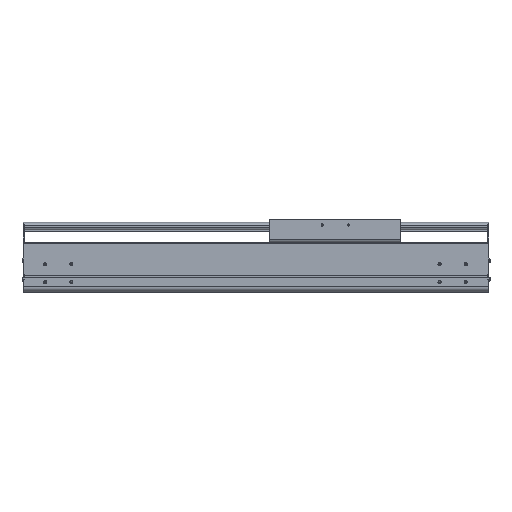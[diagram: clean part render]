
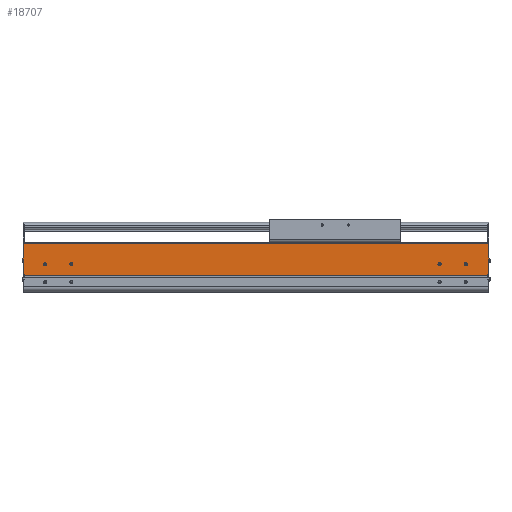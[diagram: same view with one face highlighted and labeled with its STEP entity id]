
A CAD part, top view. The second image highlights one B-rep face of the part: STEP entity #18707.
In plain terms, the highlighted planar face has unit normal (0, 0, 1).
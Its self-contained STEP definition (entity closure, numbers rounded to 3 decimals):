
#4659=DIRECTION('',(-1.,0.,0.));
#4660=VECTOR('',#4659,888.);
#4661=CARTESIAN_POINT('',(2.,93.5,107.));
#4662=LINE('',#4661,#4660);
#4685=CARTESIAN_POINT('',(-42.,54.,107.));
#4686=DIRECTION('',(0.,0.,-1.));
#4687=DIRECTION('',(1.,0.,0.));
#4688=AXIS2_PLACEMENT_3D('',#4685,#4686,#4687);
#4690=CARTESIAN_POINT('',(-42.,54.,107.));
#4691=DIRECTION('',(0.,0.,-1.));
#4692=DIRECTION('',(-1.,0.,0.));
#4693=AXIS2_PLACEMENT_3D('',#4690,#4691,#4692);
#4695=CARTESIAN_POINT('',(-92.,54.,107.));
#4696=DIRECTION('',(0.,0.,-1.));
#4697=DIRECTION('',(1.,0.,0.));
#4698=AXIS2_PLACEMENT_3D('',#4695,#4696,#4697);
#4700=CARTESIAN_POINT('',(-92.,54.,107.));
#4701=DIRECTION('',(0.,0.,-1.));
#4702=DIRECTION('',(-1.,0.,0.));
#4703=AXIS2_PLACEMENT_3D('',#4700,#4701,#4702);
#4705=CARTESIAN_POINT('',(-844.,54.,107.));
#4706=DIRECTION('',(0.,0.,-1.));
#4707=DIRECTION('',(1.,0.,0.));
#4708=AXIS2_PLACEMENT_3D('',#4705,#4706,#4707);
#4710=CARTESIAN_POINT('',(-844.,54.,107.));
#4711=DIRECTION('',(0.,0.,-1.));
#4712=DIRECTION('',(-1.,0.,0.));
#4713=AXIS2_PLACEMENT_3D('',#4710,#4711,#4712);
#4715=CARTESIAN_POINT('',(-794.,54.,107.));
#4716=DIRECTION('',(0.,0.,-1.));
#4717=DIRECTION('',(1.,0.,0.));
#4718=AXIS2_PLACEMENT_3D('',#4715,#4716,#4717);
#4720=CARTESIAN_POINT('',(-794.,54.,107.));
#4721=DIRECTION('',(0.,0.,-1.));
#4722=DIRECTION('',(-1.,0.,0.));
#4723=AXIS2_PLACEMENT_3D('',#4720,#4721,#4722);
#4725=DIRECTION('',(0.,-1.,0.));
#4726=VECTOR('',#4725,2.55);
#4727=CARTESIAN_POINT('',(-884.,34.65,107.));
#4728=LINE('',#4727,#4726);
#4729=DIRECTION('',(0.,-1.,0.));
#4730=VECTOR('',#4729,58.85);
#4731=CARTESIAN_POINT('',(-886.,93.5,107.));
#4732=LINE('',#4731,#4730);
#4733=DIRECTION('',(0.,1.,0.));
#4734=VECTOR('',#4733,58.85);
#4735=CARTESIAN_POINT('',(2.,34.65,107.));
#4736=LINE('',#4735,#4734);
#4737=DIRECTION('',(0.,1.,0.));
#4738=VECTOR('',#4737,2.55);
#4739=CARTESIAN_POINT('',(0.,32.1,107.));
#4740=LINE('',#4739,#4738);
#4849=DIRECTION('',(1.,0.,0.));
#4850=VECTOR('',#4849,2.);
#4851=CARTESIAN_POINT('',(-886.,34.65,107.));
#4852=LINE('',#4851,#4850);
#4961=DIRECTION('',(1.,0.,0.));
#4962=VECTOR('',#4961,884.);
#4963=CARTESIAN_POINT('',(-884.,32.1,107.));
#4964=LINE('',#4963,#4962);
#4977=DIRECTION('',(1.,0.,0.));
#4978=VECTOR('',#4977,2.);
#4979=CARTESIAN_POINT('',(0.,34.65,107.));
#4980=LINE('',#4979,#4978);
#10155=CARTESIAN_POINT('',(-886.,34.65,107.));
#10156=VERTEX_POINT('',#10155);
#10157=CARTESIAN_POINT('',(-886.,93.5,107.));
#10158=VERTEX_POINT('',#10157);
#10387=CARTESIAN_POINT('',(-884.,32.1,107.));
#10388=VERTEX_POINT('',#10387);
#10483=CARTESIAN_POINT('',(0.,32.1,107.));
#10484=VERTEX_POINT('',#10483);
#10793=CARTESIAN_POINT('',(-39.5,54.,107.));
#10794=CARTESIAN_POINT('',(-44.5,54.,107.));
#10795=VERTEX_POINT('',#10793);
#10796=VERTEX_POINT('',#10794);
#10797=CARTESIAN_POINT('',(-89.5,54.,107.));
#10798=CARTESIAN_POINT('',(-94.5,54.,107.));
#10799=VERTEX_POINT('',#10797);
#10800=VERTEX_POINT('',#10798);
#10801=CARTESIAN_POINT('',(-841.5,54.,107.));
#10802=CARTESIAN_POINT('',(-846.5,54.,107.));
#10803=VERTEX_POINT('',#10801);
#10804=VERTEX_POINT('',#10802);
#10805=CARTESIAN_POINT('',(-791.5,54.,107.));
#10806=CARTESIAN_POINT('',(-796.5,54.,107.));
#10807=VERTEX_POINT('',#10805);
#10808=VERTEX_POINT('',#10806);
#11780=CARTESIAN_POINT('',(2.,34.65,107.));
#11781=VERTEX_POINT('',#11780);
#11782=CARTESIAN_POINT('',(2.,93.5,107.));
#11783=VERTEX_POINT('',#11782);
#12004=CARTESIAN_POINT('',(0.,34.65,107.));
#12005=VERTEX_POINT('',#12004);
#12316=CARTESIAN_POINT('',(-884.,34.65,107.));
#12317=VERTEX_POINT('',#12316);
#18665=CARTESIAN_POINT('',(-442.,62.8,107.));
#18666=DIRECTION('',(0.,0.,1.));
#18667=DIRECTION('',(0.,-1.,0.));
#18668=AXIS2_PLACEMENT_3D('',#18665,#18666,#18667);
#18669=PLANE('',#18668);
#18670=ORIENTED_EDGE('',*,*,#14178,.F.);
#18672=ORIENTED_EDGE('',*,*,#18671,.F.);
#18673=ORIENTED_EDGE('',*,*,#14790,.F.);
#18674=ORIENTED_EDGE('',*,*,#18651,.F.);
#18675=ORIENTED_EDGE('',*,*,#13918,.F.);
#18677=ORIENTED_EDGE('',*,*,#18676,.F.);
#18678=ORIENTED_EDGE('',*,*,#13149,.F.);
#18680=ORIENTED_EDGE('',*,*,#18679,.F.);
#18681=EDGE_LOOP('',(#18670,#18672,#18673,#18674,#18675,#18677,#18678,#18680));
#18682=FACE_OUTER_BOUND('',#18681,.F.);
#18684=ORIENTED_EDGE('',*,*,#18683,.F.);
#18686=ORIENTED_EDGE('',*,*,#18685,.F.);
#18687=EDGE_LOOP('',(#18684,#18686));
#18688=FACE_BOUND('',#18687,.F.);
#18690=ORIENTED_EDGE('',*,*,#18689,.F.);
#18692=ORIENTED_EDGE('',*,*,#18691,.F.);
#18693=EDGE_LOOP('',(#18690,#18692));
#18694=FACE_BOUND('',#18693,.F.);
#18696=ORIENTED_EDGE('',*,*,#18695,.F.);
#18698=ORIENTED_EDGE('',*,*,#18697,.F.);
#18699=EDGE_LOOP('',(#18696,#18698));
#18700=FACE_BOUND('',#18699,.F.);
#18702=ORIENTED_EDGE('',*,*,#18701,.F.);
#18704=ORIENTED_EDGE('',*,*,#18703,.F.);
#18705=EDGE_LOOP('',(#18702,#18704));
#18706=FACE_BOUND('',#18705,.F.);
#18707=ADVANCED_FACE('',(#18682,#18688,#18694,#18700,#18706),#18669,.T.);
#4689=CIRCLE('',#4688,2.5);
#4694=CIRCLE('',#4693,2.5);
#4699=CIRCLE('',#4698,2.5);
#4704=CIRCLE('',#4703,2.5);
#4709=CIRCLE('',#4708,2.5);
#4714=CIRCLE('',#4713,2.5);
#4719=CIRCLE('',#4718,2.5);
#4724=CIRCLE('',#4723,2.5);
#13149=EDGE_CURVE('',#10484,#12005,#4740,.T.);
#13918=EDGE_CURVE('',#11781,#11783,#4736,.T.);
#14178=EDGE_CURVE('',#12317,#10388,#4728,.T.);
#14790=EDGE_CURVE('',#10158,#10156,#4732,.T.);
#18651=EDGE_CURVE('',#11783,#10158,#4662,.T.);
#18671=EDGE_CURVE('',#10156,#12317,#4852,.T.);
#18676=EDGE_CURVE('',#12005,#11781,#4980,.T.);
#18679=EDGE_CURVE('',#10388,#10484,#4964,.T.);
#18683=EDGE_CURVE('',#10799,#10800,#4699,.T.);
#18685=EDGE_CURVE('',#10800,#10799,#4704,.T.);
#18689=EDGE_CURVE('',#10803,#10804,#4709,.T.);
#18691=EDGE_CURVE('',#10804,#10803,#4714,.T.);
#18695=EDGE_CURVE('',#10807,#10808,#4719,.T.);
#18697=EDGE_CURVE('',#10808,#10807,#4724,.T.);
#18701=EDGE_CURVE('',#10795,#10796,#4689,.T.);
#18703=EDGE_CURVE('',#10796,#10795,#4694,.T.);
